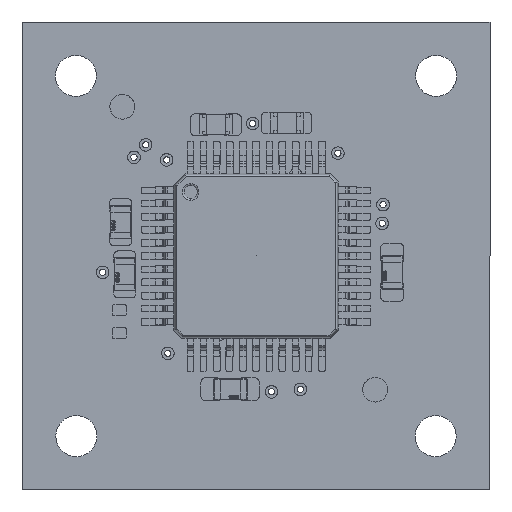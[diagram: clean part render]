
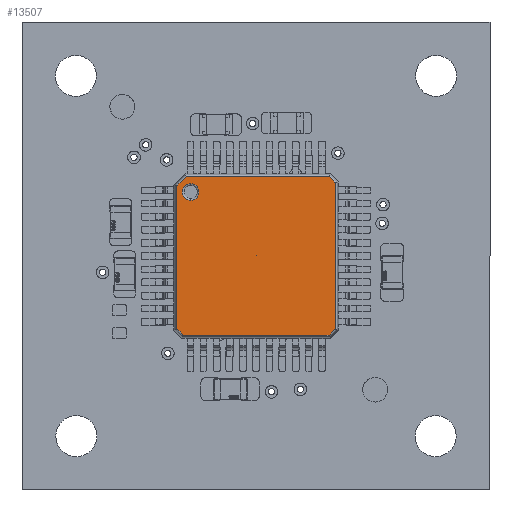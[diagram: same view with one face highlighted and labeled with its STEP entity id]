
A CAD part, front view. The second image highlights one B-rep face of the part: STEP entity #13507.
In plain terms, the highlighted planar face has unit normal (0, -1, 0).
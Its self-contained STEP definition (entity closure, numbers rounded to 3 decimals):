
#2082 = FACE_OUTER_BOUND ( 'NONE', #18846, .T. ) ;
#2124 = CARTESIAN_POINT ( 'NONE',  ( 0.006, -3.276, 0.009 ) ) ;
#2444 = ORIENTED_EDGE ( 'NONE', *, *, #126478, .T. ) ;
#3542 = VERTEX_POINT ( 'NONE', #13093 ) ;
#10026 = VECTOR ( 'NONE', #94561, 1000. ) ;
#12466 = DIRECTION ( 'NONE',  ( -0.703, 0., 0.711 ) ) ;
#12844 = CARTESIAN_POINT ( 'NONE',  ( -9.334, -3.276, -4.807 ) ) ;
#13093 = CARTESIAN_POINT ( 'NONE',  ( -4.435, -3.276, -4.807 ) ) ;
#13228 = AXIS2_PLACEMENT_3D ( 'NONE', #2124, #100143, #57801 ) ;
#13361 = DIRECTION ( 'NONE',  ( 0., 0., -1. ) ) ;
#13507 = ADVANCED_FACE ( 'NONE', ( #69633, #2082, #137073 ), #137551, .T. ) ;
#13855 = LINE ( 'NONE', #63950, #89747 ) ;
#15217 = CARTESIAN_POINT ( 'NONE',  ( -4.247, -3.276, 4.825 ) ) ;
#17580 = CIRCLE ( 'NONE', #112795, 0.504 ) ;
#18778 = EDGE_CURVE ( 'NONE', #136257, #51524, #34702, .T. ) ;
#18846 = EDGE_LOOP ( 'NONE', ( #2444, #111119, #127594, #62895, #137653, #84587, #21501, #101167 ) ) ;
#20523 = ORIENTED_EDGE ( 'NONE', *, *, #129362, .F. ) ;
#21501 = ORIENTED_EDGE ( 'NONE', *, *, #50823, .T. ) ;
#23277 = EDGE_LOOP ( 'NONE', ( #20523, #37815 ) ) ;
#24091 = VERTEX_POINT ( 'NONE', #15217 ) ;
#24565 = LINE ( 'NONE', #110526, #120734 ) ;
#25619 = CARTESIAN_POINT ( 'NONE',  ( 4.433, -3.276, -4.807 ) ) ;
#31036 = VECTOR ( 'NONE', #60299, 1000. ) ;
#31057 = CARTESIAN_POINT ( 'NONE',  ( 0.006, -3.276, 0.014 ) ) ;
#32654 = AXIS2_PLACEMENT_3D ( 'NONE', #75130, #128337, #95362 ) ;
#32894 = VECTOR ( 'NONE', #80545, 1000. ) ;
#34702 = CIRCLE ( 'NONE', #131174, 0.005 ) ;
#35024 = VECTOR ( 'NONE', #113224, 1000. ) ;
#35222 = VECTOR ( 'NONE', #125684, 1000. ) ;
#36040 = LINE ( 'NONE', #103550, #31036 ) ;
#36835 = AXIS2_PLACEMENT_3D ( 'NONE', #40914, #106371, #96004 ) ;
#37815 = ORIENTED_EDGE ( 'NONE', *, *, #18778, .F. ) ;
#38112 = VERTEX_POINT ( 'NONE', #122215 ) ;
#40351 = VECTOR ( 'NONE', #58169, 1000. ) ;
#40914 = CARTESIAN_POINT ( 'NONE',  ( -9.334, -3.276, -0.117 ) ) ;
#43340 = CIRCLE ( 'NONE', #13228, 0.005 ) ;
#47356 = LINE ( 'NONE', #116707, #10026 ) ;
#49154 = CARTESIAN_POINT ( 'NONE',  ( 0.006, -3.276, 0.009 ) ) ;
#50823 = EDGE_CURVE ( 'NONE', #97499, #124843, #47356, .T. ) ;
#51524 = VERTEX_POINT ( 'NONE', #31057 ) ;
#53306 = CARTESIAN_POINT ( 'NONE',  ( -3.975, -3.276, 4.399 ) ) ;
#53935 = LINE ( 'NONE', #12844, #40351 ) ;
#53992 = CARTESIAN_POINT ( 'NONE',  ( -3.975, -3.276, 3.391 ) ) ;
#57801 = DIRECTION ( 'NONE',  ( 0., 0., -1. ) ) ;
#58091 = CIRCLE ( 'NONE', #32654, 0.504 ) ;
#58169 = DIRECTION ( 'NONE',  ( 1., 0., 0. ) ) ;
#58193 = CARTESIAN_POINT ( 'NONE',  ( -9.334, -3.276, 4.825 ) ) ;
#60299 = DIRECTION ( 'NONE',  ( 0.703, 0., -0.711 ) ) ;
#62401 = VERTEX_POINT ( 'NONE', #139591 ) ;
#62895 = ORIENTED_EDGE ( 'NONE', *, *, #75840, .T. ) ;
#63772 = LINE ( 'NONE', #58193, #35024 ) ;
#63950 = CARTESIAN_POINT ( 'NONE',  ( -9.223, -3.276, -0.226 ) ) ;
#65693 = CARTESIAN_POINT ( 'NONE',  ( 4.432, -3.276, 4.825 ) ) ;
#67172 = CARTESIAN_POINT ( 'NONE',  ( -3.975, -3.276, 3.895 ) ) ;
#69633 = FACE_BOUND ( 'NONE', #121447, .T. ) ;
#70417 = VERTEX_POINT ( 'NONE', #25619 ) ;
#71670 = ORIENTED_EDGE ( 'NONE', *, *, #132225, .T. ) ;
#71948 = CARTESIAN_POINT ( 'NONE',  ( -0.18, -3.276, -9.371 ) ) ;
#75130 = CARTESIAN_POINT ( 'NONE',  ( -3.975, -3.276, 3.895 ) ) ;
#75528 = VERTEX_POINT ( 'NONE', #53306 ) ;
#75840 = EDGE_CURVE ( 'NONE', #62401, #3542, #36040, .T. ) ;
#80545 = DIRECTION ( 'NONE',  ( 0., 0., -1. ) ) ;
#82526 = DIRECTION ( 'NONE',  ( 0., 0., -1. ) ) ;
#84587 = ORIENTED_EDGE ( 'NONE', *, *, #140012, .T. ) ;
#89747 = VECTOR ( 'NONE', #130787, 1000. ) ;
#91354 = EDGE_CURVE ( 'NONE', #75528, #131519, #58091, .T. ) ;
#91989 = DIRECTION ( 'NONE',  ( 0., -1., 0. ) ) ;
#92595 = LINE ( 'NONE', #71948, #35222 ) ;
#94561 = DIRECTION ( 'NONE',  ( 0., 0., 1. ) ) ;
#94841 = ORIENTED_EDGE ( 'NONE', *, *, #91354, .T. ) ;
#95362 = DIRECTION ( 'NONE',  ( 0., 0., -1. ) ) ;
#95712 = EDGE_CURVE ( 'NONE', #124843, #102715, #24565, .T. ) ;
#96004 = DIRECTION ( 'NONE',  ( 0., 0., -1. ) ) ;
#97499 = VERTEX_POINT ( 'NONE', #108956 ) ;
#100143 = DIRECTION ( 'NONE',  ( 0., -1., 0. ) ) ;
#101167 = ORIENTED_EDGE ( 'NONE', *, *, #95712, .T. ) ;
#102715 = VERTEX_POINT ( 'NONE', #65693 ) ;
#103436 = CARTESIAN_POINT ( 'NONE',  ( 4.82, -3.276, 4.433 ) ) ;
#103550 = CARTESIAN_POINT ( 'NONE',  ( -9.203, -3.276, 0.012 ) ) ;
#106371 = DIRECTION ( 'NONE',  ( 0., -1., 0. ) ) ;
#108956 = CARTESIAN_POINT ( 'NONE',  ( 4.82, -3.276, -4.425 ) ) ;
#110482 = DIRECTION ( 'NONE',  ( 0., 1., 0. ) ) ;
#110526 = CARTESIAN_POINT ( 'NONE',  ( 0.095, -3.276, 9.21 ) ) ;
#111119 = ORIENTED_EDGE ( 'NONE', *, *, #135146, .T. ) ;
#112795 = AXIS2_PLACEMENT_3D ( 'NONE', #67172, #110482, #13361 ) ;
#113224 = DIRECTION ( 'NONE',  ( -1., 0., 0. ) ) ;
#116542 = EDGE_CURVE ( 'NONE', #3542, #70417, #53935, .T. ) ;
#116571 = CARTESIAN_POINT ( 'NONE',  ( 0.006, -3.276, 0.004 ) ) ;
#116707 = CARTESIAN_POINT ( 'NONE',  ( 4.82, -3.276, -0.117 ) ) ;
#120734 = VECTOR ( 'NONE', #12466, 1000. ) ;
#121447 = EDGE_LOOP ( 'NONE', ( #71670, #94841 ) ) ;
#122215 = CARTESIAN_POINT ( 'NONE',  ( -4.812, -3.276, 4.251 ) ) ;
#123493 = EDGE_CURVE ( 'NONE', #38112, #62401, #126250, .T. ) ;
#124843 = VERTEX_POINT ( 'NONE', #103436 ) ;
#124848 = CARTESIAN_POINT ( 'NONE',  ( -4.812, -3.276, -0.117 ) ) ;
#125684 = DIRECTION ( 'NONE',  ( 0.711, 0., 0.703 ) ) ;
#126250 = LINE ( 'NONE', #124848, #32894 ) ;
#126478 = EDGE_CURVE ( 'NONE', #102715, #24091, #63772, .T. ) ;
#127594 = ORIENTED_EDGE ( 'NONE', *, *, #123493, .T. ) ;
#128337 = DIRECTION ( 'NONE',  ( 0., 1., 0. ) ) ;
#129362 = EDGE_CURVE ( 'NONE', #51524, #136257, #43340, .T. ) ;
#130787 = DIRECTION ( 'NONE',  ( -0.702, 0., -0.712 ) ) ;
#131174 = AXIS2_PLACEMENT_3D ( 'NONE', #49154, #91989, #82526 ) ;
#131519 = VERTEX_POINT ( 'NONE', #53992 ) ;
#132225 = EDGE_CURVE ( 'NONE', #131519, #75528, #17580, .T. ) ;
#135146 = EDGE_CURVE ( 'NONE', #24091, #38112, #13855, .T. ) ;
#136257 = VERTEX_POINT ( 'NONE', #116571 ) ;
#137073 = FACE_BOUND ( 'NONE', #23277, .T. ) ;
#137551 = PLANE ( 'NONE',  #36835 ) ;
#137653 = ORIENTED_EDGE ( 'NONE', *, *, #116542, .T. ) ;
#139591 = CARTESIAN_POINT ( 'NONE',  ( -4.812, -3.276, -4.426 ) ) ;
#140012 = EDGE_CURVE ( 'NONE', #70417, #97499, #92595, .T. ) ;
